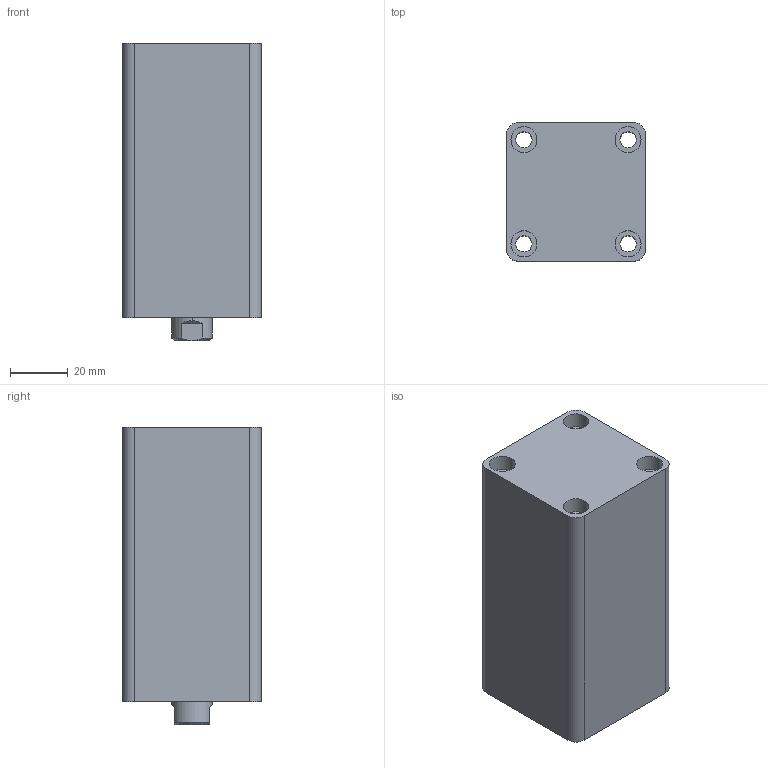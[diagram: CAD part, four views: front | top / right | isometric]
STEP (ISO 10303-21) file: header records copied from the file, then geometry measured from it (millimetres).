
FILE_DESCRIPTION (( 'STEP AP203' ), '1' );
FILE_NAME ('HTB-SD25-50N.STEP', '2019-10-07T06:03:52', ( '微软用户' ), ( '微软中国' ), 'SwSTEP 2.0', 'SolidWorks 2012', '' );
FILE_SCHEMA (( 'CONFIG_CONTROL_DESIGN' ));
Length unit declared in the file: millimetre
Products named in the file (3): HTB-SD25-50掛极; HTB-SD25-50N活塞杆; HTB-SD25-50N
Assembly tree (2 placements, depth 2):
  HTB-SD25-50N
    HTB-SD25-50掛极
    HTB-SD25-50N活塞杆
Bounding box: 48 x 48 x 103 mm (x, y, z)
Volume: 188904.6 mm3; surface area: 42350.1 mm2
Topology: 2 solids, 2 shells, 83 faces, 182 edges, 117 vertices
Faces by surface type: cylinder 42, plane 27, cone 8, torus 6
Entity records: 2653 total; most frequent: DIRECTION 454, CARTESIAN_POINT 429, ORIENTED_EDGE 360, AXIS2_PLACEMENT_3D 194, EDGE_CURVE 180, VERTEX_POINT 117, EDGE_LOOP 107, CIRCLE 106
